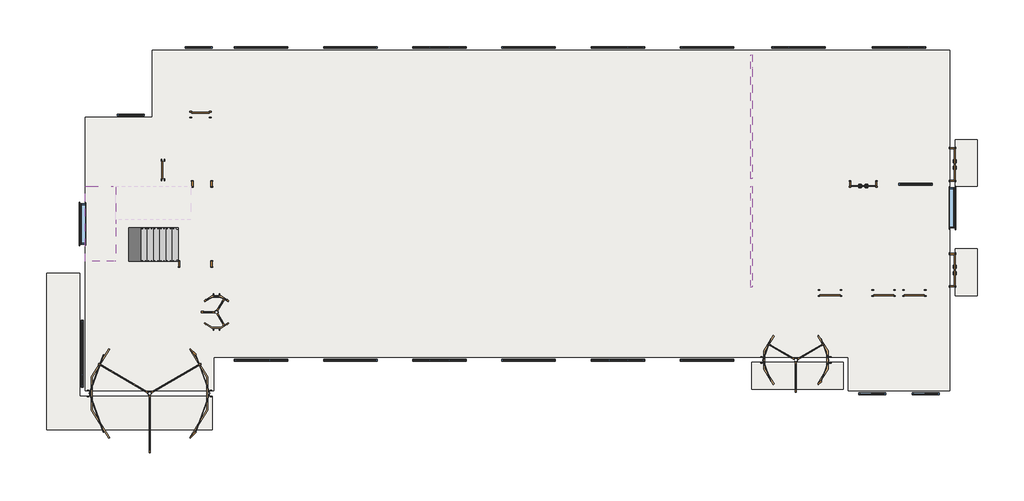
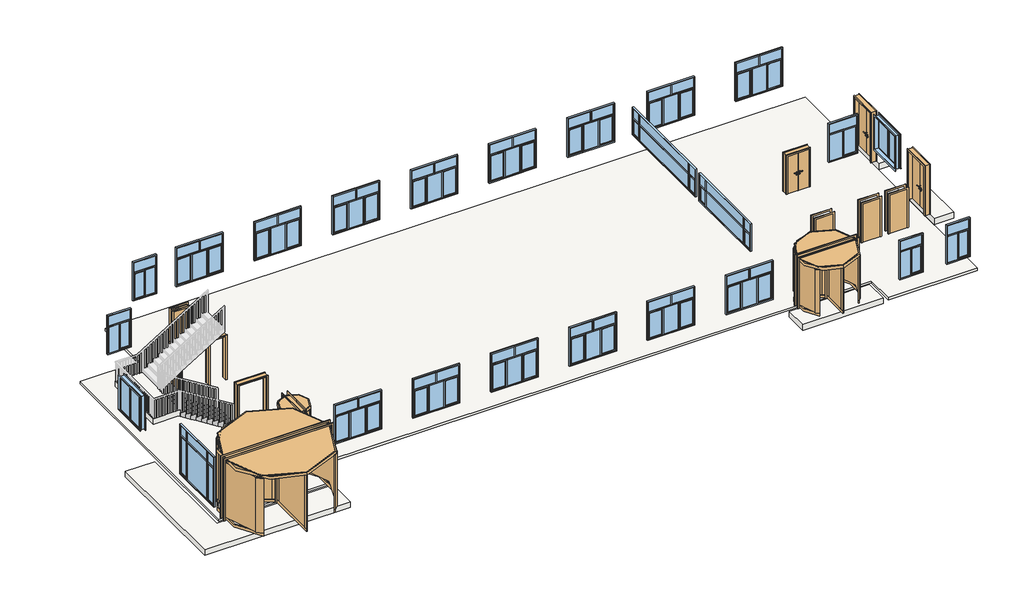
# One storey, part 1 of 3: 24 windows, 13 doors, 6 slabs, 1 stair flight.
"""IFC4 building model written with IfcOpenShell, lengths in millimetres."""

from ifc_helpers import new_model, si_unit, frame, origin, place, context, project, spatial, polyline, outline, extrude, faceted_brep, transform, mapped, element, save
from components import m_1_02a121c7, m_2_975caadc, m_3_cd12d806, m_4_30aa87ab, m_5_25037a99, m_6_198a37c4, m_6_4988a537, m_7_1c2f6ab2, m_7_583f3ef9, md0924_8bf075f8, md1524_4945f9d6, c_1_d84b719d, c_1_30db215e, c_3_661ab909, c_4_3f02acb8, c_6_b548e64d, zhc1_c9cb109f, zhc2_039f3e8a, zhc3_4fd9556d

model = new_model("IFC4")

# Units and contexts
model_context = context("Model", 3, world=origin())
ifc_project = project(units=[si_unit("LENGTHUNIT", "METRE", prefix="MILLI")], contexts=[model_context])

# Site, building, storey
site = spatial("IfcSite", under=ifc_project)
building = spatial("IfcBuilding", under=site)
storey = spatial("IfcBuildingStorey", under=building, Name="标高 1", Elevation=0.0)

# Doors
placement = place(None, origin())
m_1_shape = m_1_02a121c7(model_context)
element("IfcDoor", 1, ObjectType="旋转门 3 : M-1", at=placement, inside=storey, context=model_context, shape_type="MappedRepresentation", body=[
    mapped(m_1_shape, transform((-554.8947527, -10128.768361, 0.0), x_axis=(-1.0, 0.0, 0.0), y_axis=(0.0, -1.0, 0.0), z_axis=(0.0, 0.0, 1.0))),
])
m_2_shape = m_2_975caadc(model_context)
element("IfcDoor", 2, ObjectType="旋转门 3 : M-2", at=placement, inside=storey, context=model_context, shape_type="MappedRepresentation", body=[
    mapped(m_2_shape, transform((28425.1052473, -8628.768361, 0.0), x_axis=(-1.0, 0.0, 0.0), y_axis=(0.0, -1.0, 0.0), z_axis=(0.0, 0.0, 1.0))),
])
m_3_shape = m_3_cd12d806(model_context)
element("IfcDoor", 3, ObjectType="双面嵌板木门 1 : M-3", at=placement, inside=storey, context=model_context, shape_type="MappedRepresentation", body=[
    mapped(m_3_shape, transform((35445.1052473, -4598.768361, 0.0), x_axis=(0.0, -1.0, 0.0), y_axis=(1.0, 0.0, 0.0), z_axis=(0.0, 0.0, 1.0))),
])
element("IfcDoor", 4, ObjectType="双面嵌板木门 1 : M-3", at=placement, inside=storey, context=model_context, shape_type="MappedRepresentation", body=[
    mapped(m_3_shape, transform((35445.1052473, 141.231639, 0.0), x_axis=(0.0, -1.0, 0.0), y_axis=(1.0, 0.0, 0.0), z_axis=(0.0, 0.0, 1.0))),
])
m_4_shape = m_4_30aa87ab(model_context)
element("IfcDoor", 5, ObjectType="旋转门 3 : M-4", at=placement, inside=storey, context=model_context, shape_type="MappedRepresentation", body=[
    mapped(m_4_shape, transform((2445.1052473, -6478.768361, 0.0), x_axis=(0.0, 1.0, 0.0), y_axis=(-1.0, 0.0, 0.0), z_axis=(0.0, 0.0, 1.0))),
])
m_5_shape = m_5_25037a99(model_context)
element("IfcDoor", 6, ObjectType="双面嵌板木门 1 : M-5", at=placement, inside=storey, context=model_context, shape_type="MappedRepresentation", body=[
    mapped(m_5_shape, transform((31445.1052473, -728.768361, 0.0), x_axis=(-1.0, 0.0, 0.0), y_axis=(0.0, -1.0, 0.0), z_axis=(0.0, 0.0, 1.0))),
])
m_6_shape = m_6_198a37c4(model_context)
element("IfcDoor", 7, ObjectType="单扇 - 与墙齐 : M-6", at=placement, inside=storey, context=model_context, shape_type="MappedRepresentation", body=[
    mapped(m_6_shape, transform((29955.1052473, -5628.768361, 0.0), x_axis=(1.0, 0.0, 0.0), y_axis=(0.0, 1.0, 0.0), z_axis=(0.0, 0.0, 1.0))),
])
element("IfcDoor", 8, ObjectType="单扇 - 与墙齐 : M-6", at=placement, inside=storey, context=model_context, shape_type="MappedRepresentation", body=[
    mapped(m_6_shape, transform((32355.1052473, -5628.768361, 0.0), x_axis=(1.0, 0.0, 0.0), y_axis=(0.0, 1.0, 0.0), z_axis=(0.0, 0.0, 1.0))),
])
m_6_2_shape = m_6_4988a537(model_context)
element("IfcDoor", 9, ObjectType="单扇 - 与墙齐 : M-6", at=placement, inside=storey, context=model_context, shape_type="MappedRepresentation", body=[
    mapped(m_6_2_shape, transform((33735.1052473, -5628.768361, 0.0), x_axis=(-1.0, 0.0, 0.0), y_axis=(0.0, -1.0, 0.0), z_axis=(0.0, 0.0, 1.0))),
])
m_7_shape = m_7_1c2f6ab2(model_context)
element("IfcDoor", 10, ObjectType="单扇 - 与墙齐 : M-7", at=placement, inside=storey, context=model_context, shape_type="MappedRepresentation", body=[
    mapped(m_7_shape, transform((45.1052473, -108.768361, 0.0), x_axis=(0.0, -1.0, 0.0), y_axis=(1.0, 0.0, 0.0), z_axis=(0.0, 0.0, 1.0))),
])
m_7_2_shape = m_7_583f3ef9(model_context)
element("IfcDoor", 11, ObjectType="单扇 - 与墙齐 : M-7", at=placement, inside=storey, context=model_context, shape_type="MappedRepresentation", body=[
    mapped(m_7_2_shape, transform((1725.1052473, 2371.231639, 0.0), x_axis=(1.0, 0.0, 0.0), y_axis=(0.0, 1.0, 0.0), z_axis=(0.0, 0.0, 1.0))),
])
md0924_shape = md0924_8bf075f8(model_context)
element("IfcDoor", 12, ObjectType="门洞 : MD0924", at=placement, inside=storey, context=model_context, shape_type="MappedRepresentation", body=[
    mapped(md0924_shape, transform((1795.1052473, -728.768361, 0.0), x_axis=(1.0, 0.0, 0.0), y_axis=(0.0, 1.0, 0.0), z_axis=(0.0, 0.0, 1.0))),
])
md1524_shape = md1524_4945f9d6(model_context)
element("IfcDoor", 13, ObjectType="门洞 : MD1524", at=placement, inside=storey, context=model_context, shape_type="MappedRepresentation", body=[
    mapped(md1524_shape, transform((1495.1052473, -4328.768361, 0.0), x_axis=(-1.0, 0.0, 0.0), y_axis=(0.0, -1.0, 0.0), z_axis=(0.0, 0.0, 1.0))),
])

# Slabs
element("IfcSlab", 14, ObjectType="底板-120mm", at=placement, inside=storey, context=model_context, shape_type="SweptSolid", body=[
    extrude(outline(polyline([(-3434.8947527, 2251.231639), (-434.8947527, 2251.231639), (-434.8947527, 5251.231639), (35325.1052473, 5251.231639), (35325.1052473, -10008.768361), (30765.1052473, -10008.768361), (30765.1052473, -8508.768361), (2325.1052473, -8508.768361), (2325.1052473, -10008.768361), (-3434.8947527, -10008.768361), (-3434.8947527, 2251.231639)])), frame((0.0, 0.0, -120.0), z_axis=(0.0, 0.0, 1.0), x_axis=(1.0, 0.0, 0.0)), (0.0, 0.0, 1.0), 120.0),
])
element("IfcSlab", 15, ObjectType="300mm 厚度", at=placement, inside=storey, context=model_context, shape_type="Brep", body=[
    faceted_brep([(-2074.8947527, -4208.768361, 1910.5263158), (-2074.8947527, -2708.768361, 1910.5263158), (-2074.8947527, -2348.768361, 1910.5263158), (-2074.8947527, -848.768361, 1910.5263158), (-2273.9682357, -848.768361, 1910.5263158), (-3434.8947527, -848.768361, 1910.5263158), (-3434.8947527, -4208.768361, 1910.5263158), (-2155.8212698, -4208.768361, 1910.5263158), (-2074.8947527, -4208.768361, 1736.8421053), (-2074.8947527, -4208.768361, 1560.3275364), (-2074.8947527, -2708.768361, 1560.3275364), (-2074.8947527, -2708.768361, 1610.5263158), (-2074.8947527, -2348.768361, 1610.5263158), (-2074.8947527, -2348.768361, 1734.0117469), (-2074.8947527, -848.768361, 1734.0117469), (-2273.9682357, -848.768361, 1610.5263158), (-3434.8947527, -848.768361, 1610.5263158), (-3434.8947527, -4208.768361, 1610.5263158), (-2155.8212698, -4208.768361, 1610.5263158), (-2273.9682357, -2348.768361, 1610.5263158), (-2155.8212698, -2708.768361, 1610.5263158)], [[[0, 1, 2, 3, 4, 5, 6, 7]], [[1, 0, 8, 9, 10, 11]], [[2, 1, 11, 12, 13]], [[3, 2, 13, 14]], [[3, 14, 15, 16, 5, 4]], [[6, 5, 16, 17]], [[9, 8, 0, 7, 6, 17, 18]], [[19, 12, 11, 20, 18, 17, 16, 15]], [[12, 19, 13]], [[18, 20, 10, 9]], [[20, 11, 10]], [[19, 15, 14, 13]]]),
])
element("IfcSlab", 16, ObjectType="300mm", at=placement, inside=storey, context=model_context, shape_type="SweptSolid", body=[
    extrude(outline(polyline([(-3674.8947527, -10248.768361), (2265.1052473, -10248.768361), (2265.1052473, -11748.768361), (-5174.8947527, -11748.768361), (-5174.8947527, -4748.768361), (-3674.8947527, -4748.768361), (-3674.8947527, -10248.768361)])), frame((0.0, 0.0, -300.0), z_axis=(0.0, 0.0, 1.0), x_axis=(1.0, 0.0, 0.0)), (0.0, 0.0, 1.0), 300.0),
])
element("IfcSlab", 17, ObjectType="300mm", at=placement, inside=storey, context=model_context, shape_type="SweptSolid", body=[
    extrude(outline(polyline([(26445.1052473, -9928.768361), (26445.1052473, -8728.768361), (30545.1052473, -8728.768361), (30545.1052473, -9928.768361), (26445.1052473, -9928.768361)])), frame((0.0, 0.0, -300.0), z_axis=(0.0, 0.0, 1.0), x_axis=(1.0, 0.0, 0.0)), (0.0, 0.0, 1.0), 300.0),
])
element("IfcSlab", 18, ObjectType="300mm", at=placement, inside=storey, context=model_context, shape_type="SweptSolid", body=[
    extrude(outline(polyline([(36565.1052473, -5748.768361), (35565.1052473, -5748.768361), (35565.1052473, -3648.768361), (36565.1052473, -3648.768361), (36565.1052473, -5748.768361)])), frame((0.0, 0.0, -300.0), z_axis=(0.0, 0.0, 1.0), x_axis=(1.0, 0.0, 0.0)), (0.0, 0.0, 1.0), 300.0),
])
element("IfcSlab", 19, ObjectType="300mm", at=placement, inside=storey, context=model_context, shape_type="SweptSolid", body=[
    extrude(outline(polyline([(36565.1052473, -848.768361), (35565.1052473, -848.768361), (35565.1052473, 1251.231639), (36565.1052473, 1251.231639), (36565.1052473, -848.768361)])), frame((0.0, 0.0, -300.0), z_axis=(0.0, 0.0, 1.0), x_axis=(1.0, 0.0, 0.0)), (0.0, 0.0, 1.0), 300.0),
])

# Stair flight
element("IfcStairFlight", 20, ObjectType="150mm 结构深度", at=placement, inside=storey, context=model_context, shape_type="Brep", body=[
    faceted_brep([(445.1052473, -4208.768361, 173.6842105), (725.1052473, -4208.768361, 173.6842105), (725.1052473, -2708.768361, 173.6842105), (445.1052473, -2708.768361, 173.6842105), (445.1052473, -4208.768361, 0.0), (725.1052473, -4208.768361, 0.0), (725.1052473, -2708.768361, 0.0), (445.1052473, -2708.768361, 0.0), (165.1052473, -4208.768361, 347.3684211), (445.1052473, -4208.768361, 347.3684211), (445.1052473, -2708.768361, 347.3684211), (165.1052473, -2708.768361, 347.3684211), (165.1052473, -4208.768361, 170.8538522), (440.5423666, -4208.768361, 0.0), (440.5423666, -2708.768361, 0.0), (165.1052473, -2708.768361, 170.8538522), (-114.8947527, -4208.768361, 521.0526316), (165.1052473, -4208.768361, 521.0526316), (165.1052473, -2708.768361, 521.0526316), (-114.8947527, -2708.768361, 521.0526316), (-114.8947527, -4208.768361, 344.5380627), (-114.8947527, -2708.768361, 344.5380627), (-394.8947527, -4208.768361, 694.7368421), (-114.8947527, -4208.768361, 694.7368421), (-114.8947527, -2708.768361, 694.7368421), (-394.8947527, -2708.768361, 694.7368421), (-394.8947527, -4208.768361, 518.2222733), (-394.8947527, -2708.768361, 518.2222733), (-674.8947527, -4208.768361, 868.4210526), (-394.8947527, -4208.768361, 868.4210526), (-394.8947527, -2708.768361, 868.4210526), (-674.8947527, -2708.768361, 868.4210526), (-674.8947527, -4208.768361, 691.9064838), (-674.8947527, -2708.768361, 691.9064838), (-954.8947527, -4208.768361, 1042.1052632), (-674.8947527, -4208.768361, 1042.1052632), (-674.8947527, -2708.768361, 1042.1052632), (-954.8947527, -2708.768361, 1042.1052632), (-954.8947527, -4208.768361, 865.5906943), (-954.8947527, -2708.768361, 865.5906943), (-1234.8947527, -4208.768361, 1215.7894737), (-954.8947527, -4208.768361, 1215.7894737), (-954.8947527, -2708.768361, 1215.7894737), (-1234.8947527, -2708.768361, 1215.7894737), (-1234.8947527, -4208.768361, 1039.2749048), (-1234.8947527, -2708.768361, 1039.2749048), (-1514.8947527, -4208.768361, 1389.4736842), (-1234.8947527, -4208.768361, 1389.4736842), (-1234.8947527, -2708.768361, 1389.4736842), (-1514.8947527, -2708.768361, 1389.4736842), (-1514.8947527, -4208.768361, 1212.9591154), (-1514.8947527, -2708.768361, 1212.9591154), (-1794.8947527, -4208.768361, 1563.1578947), (-1514.8947527, -4208.768361, 1563.1578947), (-1514.8947527, -2708.768361, 1563.1578947), (-1794.8947527, -2708.768361, 1563.1578947), (-1794.8947527, -4208.768361, 1386.6433259), (-1794.8947527, -2708.768361, 1386.6433259), (-2074.8947527, -4208.768361, 1736.8421053), (-1794.8947527, -4208.768361, 1736.8421053), (-1794.8947527, -2708.768361, 1736.8421053), (-2074.8947527, -2708.768361, 1736.8421053), (-2074.8947527, -4208.768361, 1560.3275364), (-2074.8947527, -2708.768361, 1560.3275364), (-2074.8947527, -2708.768361, 1610.5263158)], [[[0, 1, 2, 3]], [[1, 0, 4, 5]], [[2, 1, 5, 6]], [[3, 2, 6, 7]], [[8, 9, 10, 11]], [[4, 0, 9, 8, 12, 13]], [[0, 3, 10, 9]], [[3, 7, 14, 15, 11, 10]], [[16, 17, 18, 19]], [[17, 16, 20, 12, 8]], [[8, 11, 18, 17]], [[19, 18, 11, 15, 21]], [[22, 23, 24, 25]], [[23, 22, 26, 20, 16]], [[16, 19, 24, 23]], [[25, 24, 19, 21, 27]], [[28, 29, 30, 31]], [[29, 28, 32, 26, 22]], [[22, 25, 30, 29]], [[31, 30, 25, 27, 33]], [[34, 35, 36, 37]], [[35, 34, 38, 32, 28]], [[28, 31, 36, 35]], [[37, 36, 31, 33, 39]], [[40, 41, 42, 43]], [[41, 40, 44, 38, 34]], [[34, 37, 42, 41]], [[43, 42, 37, 39, 45]], [[46, 47, 48, 49]], [[47, 46, 50, 44, 40]], [[40, 43, 48, 47]], [[49, 48, 43, 45, 51]], [[52, 53, 54, 55]], [[53, 52, 56, 50, 46]], [[46, 49, 54, 53]], [[55, 54, 49, 51, 57]], [[58, 59, 60, 61]], [[59, 58, 62, 56, 52]], [[52, 55, 60, 59]], [[61, 60, 55, 57, 63, 64]], [[58, 61, 64, 63, 62]], [[5, 4, 13, 14, 7, 6]], [[14, 13, 12, 20, 26, 32, 38, 44, 50, 56, 62, 63, 57, 51, 45, 39, 33, 27, 21, 15]]]),
])

# Windows
c_1_shape = c_1_d84b719d(model_context)
element("IfcWindow", 21, ObjectType="组合窗 - 双层三列(平开+固定+平开) - 上部双扇 : C-1", at=placement, inside=storey, context=model_context, shape_type="MappedRepresentation", body=[
    mapped(c_1_shape, transform((4445.1052473, -8628.768361, 0.0), x_axis=(-1.0, 0.0, 0.0), y_axis=(0.0, -1.0, 0.0), z_axis=(0.0, 0.0, 1.0))),
])
element("IfcWindow", 22, ObjectType="组合窗 - 双层三列(平开+固定+平开) - 上部双扇 : C-1", at=placement, inside=storey, context=model_context, shape_type="MappedRepresentation", body=[
    mapped(c_1_shape, transform((8445.1052473, -8628.768361, 0.0), x_axis=(-1.0, 0.0, 0.0), y_axis=(0.0, -1.0, 0.0), z_axis=(0.0, 0.0, 1.0))),
])
element("IfcWindow", 23, ObjectType="组合窗 - 双层三列(平开+固定+平开) - 上部双扇 : C-1", at=placement, inside=storey, context=model_context, shape_type="MappedRepresentation", body=[
    mapped(c_1_shape, transform((12445.1052473, -8628.768361, 0.0), x_axis=(-1.0, 0.0, 0.0), y_axis=(0.0, -1.0, 0.0), z_axis=(0.0, 0.0, 1.0))),
])
element("IfcWindow", 24, ObjectType="组合窗 - 双层三列(平开+固定+平开) - 上部双扇 : C-1", at=placement, inside=storey, context=model_context, shape_type="MappedRepresentation", body=[
    mapped(c_1_shape, transform((16445.1052473, -8628.768361, 0.0), x_axis=(-1.0, 0.0, 0.0), y_axis=(0.0, -1.0, 0.0), z_axis=(0.0, 0.0, 1.0))),
])
element("IfcWindow", 25, ObjectType="组合窗 - 双层三列(平开+固定+平开) - 上部双扇 : C-1", at=placement, inside=storey, context=model_context, shape_type="MappedRepresentation", body=[
    mapped(c_1_shape, transform((20445.1052473, -8628.768361, 0.0), x_axis=(-1.0, 0.0, 0.0), y_axis=(0.0, -1.0, 0.0), z_axis=(0.0, 0.0, 1.0))),
])
element("IfcWindow", 26, ObjectType="组合窗 - 双层三列(平开+固定+平开) - 上部双扇 : C-1", at=placement, inside=storey, context=model_context, shape_type="MappedRepresentation", body=[
    mapped(c_1_shape, transform((24445.1052473, -8628.768361, 0.0), x_axis=(-1.0, 0.0, 0.0), y_axis=(0.0, -1.0, 0.0), z_axis=(0.0, 0.0, 1.0))),
])
c_1_2_shape = c_1_30db215e(model_context)
element("IfcWindow", 27, ObjectType="组合窗 - 双层三列(平开+固定+平开) - 上部双扇 : C-1", at=placement, inside=storey, context=model_context, shape_type="MappedRepresentation", body=[
    mapped(c_1_2_shape, transform((4445.1052473, 5371.231639, 0.0), x_axis=(-1.0, 0.0, 0.0), y_axis=(0.0, -1.0, 0.0), z_axis=(0.0, 0.0, 1.0))),
])
element("IfcWindow", 28, ObjectType="组合窗 - 双层三列(平开+固定+平开) - 上部双扇 : C-1", at=placement, inside=storey, context=model_context, shape_type="MappedRepresentation", body=[
    mapped(c_1_2_shape, transform((8445.1052473, 5371.231639, 0.0), x_axis=(-1.0, 0.0, 0.0), y_axis=(0.0, -1.0, 0.0), z_axis=(0.0, 0.0, 1.0))),
])
element("IfcWindow", 29, ObjectType="组合窗 - 双层三列(平开+固定+平开) - 上部双扇 : C-1", at=placement, inside=storey, context=model_context, shape_type="MappedRepresentation", body=[
    mapped(c_1_2_shape, transform((12445.1052473, 5371.231639, 0.0), x_axis=(-1.0, 0.0, 0.0), y_axis=(0.0, -1.0, 0.0), z_axis=(0.0, 0.0, 1.0))),
])
element("IfcWindow", 30, ObjectType="组合窗 - 双层三列(平开+固定+平开) - 上部双扇 : C-1", at=placement, inside=storey, context=model_context, shape_type="MappedRepresentation", body=[
    mapped(c_1_2_shape, transform((16445.1052473, 5371.231639, 0.0), x_axis=(-1.0, 0.0, 0.0), y_axis=(0.0, -1.0, 0.0), z_axis=(0.0, 0.0, 1.0))),
])
element("IfcWindow", 31, ObjectType="组合窗 - 双层三列(平开+固定+平开) - 上部双扇 : C-1", at=placement, inside=storey, context=model_context, shape_type="MappedRepresentation", body=[
    mapped(c_1_2_shape, transform((20445.1052473, 5371.231639, 0.0), x_axis=(-1.0, 0.0, 0.0), y_axis=(0.0, -1.0, 0.0), z_axis=(0.0, 0.0, 1.0))),
])
element("IfcWindow", 32, ObjectType="组合窗 - 双层三列(平开+固定+平开) - 上部双扇 : C-1", at=placement, inside=storey, context=model_context, shape_type="MappedRepresentation", body=[
    mapped(c_1_2_shape, transform((24445.1052473, 5371.231639, 0.0), x_axis=(-1.0, 0.0, 0.0), y_axis=(0.0, -1.0, 0.0), z_axis=(0.0, 0.0, 1.0))),
])
element("IfcWindow", 33, ObjectType="组合窗 - 双层三列(平开+固定+平开) - 上部双扇 : C-1", at=placement, inside=storey, context=model_context, shape_type="MappedRepresentation", body=[
    mapped(c_1_2_shape, transform((28545.1052473, 5371.231639, 0.0), x_axis=(-1.0, 0.0, 0.0), y_axis=(0.0, -1.0, 0.0), z_axis=(0.0, 0.0, 1.0))),
])
element("IfcWindow", 34, ObjectType="组合窗 - 双层三列(平开+固定+平开) - 上部双扇 : C-1", at=placement, inside=storey, context=model_context, shape_type="MappedRepresentation", body=[
    mapped(c_1_2_shape, transform((33045.1052473, 5371.231639, 0.0), x_axis=(-1.0, 0.0, 0.0), y_axis=(0.0, -1.0, 0.0), z_axis=(0.0, 0.0, 1.0))),
])
c_3_shape = c_3_661ab909(model_context)
element("IfcWindow", 35, ObjectType="双扇平开 - 带贴面 : C-3", at=placement, inside=storey, context=model_context, shape_type="MappedRepresentation", body=[
    mapped(c_3_shape, transform((35445.1052473, -1808.768361, -1.0), x_axis=(0.0, -1.0, 0.0), y_axis=(1.0, 0.0, 0.0), z_axis=(0.0, 0.0, 1.0))),
])
element("IfcWindow", 36, ObjectType="双扇平开 - 带贴面 : C-3", at=placement, inside=storey, context=model_context, shape_type="MappedRepresentation", body=[
    mapped(c_3_shape, transform((-3554.8947527, -2528.768361, -1.0), x_axis=(0.0, 1.0, 0.0), y_axis=(-1.0, 0.0, 0.0), z_axis=(0.0, 0.0, 1.0))),
])
c_4_shape = c_4_3f02acb8(model_context)
element("IfcWindow", 37, ObjectType="组合窗 - 双层单列(固定+推拉) : C-4", at=placement, inside=storey, context=model_context, shape_type="MappedRepresentation", body=[
    mapped(c_4_shape, transform((31845.1052473, -10128.768361, 0.0), x_axis=(-1.0, 0.0, 0.0), y_axis=(0.0, -1.0, 0.0), z_axis=(0.0, 0.0, 1.0))),
])
element("IfcWindow", 38, ObjectType="组合窗 - 双层单列(固定+推拉) : C-4", at=placement, inside=storey, context=model_context, shape_type="MappedRepresentation", body=[
    mapped(c_4_shape, transform((34245.1052473, -10128.768361, 0.0), x_axis=(-1.0, 0.0, 0.0), y_axis=(0.0, -1.0, 0.0), z_axis=(0.0, 0.0, 1.0))),
])
element("IfcWindow", 39, ObjectType="组合窗 - 双层单列(固定+推拉) : C-4", at=placement, inside=storey, context=model_context, shape_type="MappedRepresentation", body=[
    mapped(c_4_shape, transform((1645.1052473, 5371.231639, 0.0), x_axis=(1.0, 0.0, 0.0), y_axis=(0.0, 1.0, 0.0), z_axis=(0.0, 0.0, 1.0))),
])
element("IfcWindow", 40, ObjectType="组合窗 - 双层单列(固定+推拉) : C-4", at=placement, inside=storey, context=model_context, shape_type="MappedRepresentation", body=[
    mapped(c_4_shape, transform((-1394.8947527, 2371.231639, 0.0), x_axis=(-1.0, 0.0, 0.0), y_axis=(0.0, -1.0, 0.0), z_axis=(0.0, 0.0, 1.0))),
])
c_6_shape = c_6_b548e64d(model_context)
element("IfcWindow", 41, ObjectType="组合窗 - 双层单列(固定+推拉) : C-6", at=placement, inside=storey, context=model_context, shape_type="MappedRepresentation", body=[
    mapped(c_6_shape, transform((33795.1052473, -728.768361, 0.0), x_axis=(-1.0, 0.0, 0.0), y_axis=(0.0, -1.0, 0.0), z_axis=(0.0, 0.0, 1.0))),
])
zhc1_shape = zhc1_c9cb109f(model_context)
element("IfcWindow", 42, ObjectType="组合窗 - 双层三列(平开+固定+平开) - 上部三扇固定 : ZHC1", at=placement, inside=storey, context=model_context, shape_type="MappedRepresentation", body=[
    mapped(zhc1_shape, transform((26445.1052473, -3096.268361, 300.0), x_axis=(0.0, 1.0, 0.0), y_axis=(-1.0, 0.0, 0.0), z_axis=(0.0, 0.0, 1.0))),
])
zhc2_shape = zhc2_039f3e8a(model_context)
element("IfcWindow", 43, ObjectType="组合窗 - 双层三列(平开+固定+平开) - 上部三扇固定 : ZHC2", at=placement, inside=storey, context=model_context, shape_type="MappedRepresentation", body=[
    mapped(zhc2_shape, transform((26445.1052473, 2283.731639, 300.0), x_axis=(0.0, 1.0, 0.0), y_axis=(-1.0, 0.0, 0.0), z_axis=(0.0, 0.0, 1.0))),
])
zhc3_shape = zhc3_4fd9556d(model_context)
element("IfcWindow", 44, ObjectType="组合窗 - 双层三列(平开+固定+平开) - 上部三扇固定 : ZHC3", at=placement, inside=storey, context=model_context, shape_type="MappedRepresentation", body=[
    mapped(zhc3_shape, transform((-3554.8947527, -8348.768361, -300.0), x_axis=(0.0, 1.0, 0.0), y_axis=(-1.0, 0.0, 0.0), z_axis=(0.0, 0.0, 1.0))),
])

save(model, "model.ifc")
